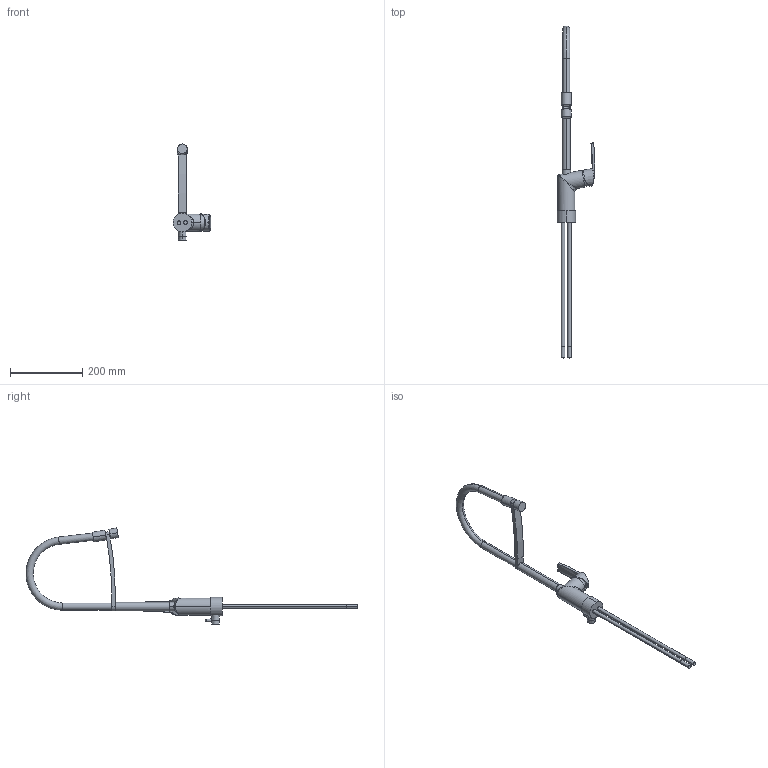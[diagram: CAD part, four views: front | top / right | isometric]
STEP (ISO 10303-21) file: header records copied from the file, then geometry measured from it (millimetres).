
FILE_DESCRIPTION((''),'2;1');
FILE_NAME('762200_WEB_ASM','2018-08-21T15:20:41',('jaj'),(''),'CREO PARAMETRIC BY PTC INC, 2017380','CREO PARAMETRIC BY PTC INC, 2017380','');
FILE_SCHEMA(('CONFIG_CONTROL_DESIGN'));
Length unit declared in the file: millimetre
Products named in the file (3): 48425_WEB; 65128_WEB; 762200_WEB_ASM
Assembly tree (2 placements, depth 2):
  762200_WEB_ASM
    48425_WEB
    65128_WEB
Bounding box: 104.83 x 917.94 x 265.54 mm (x, y, z)
Surface area: 159435.9 mm2 (no closed solid volume)
Topology: 0 solids, 15 shells, 77 faces, 211 edges, 143 vertices
Faces by surface type: cylinder 37, plane 18, cone 8, bspline 6, sphere 4, extrusion 2, torus 2
Entity records: 3319 total; most frequent: CARTESIAN_POINT 1395, DIRECTION 387, ORIENTED_EDGE 352, EDGE_CURVE 209, AXIS2_PLACEMENT_3D 159, VERTEX_POINT 143, CIRCLE 85, EDGE_LOOP 77
